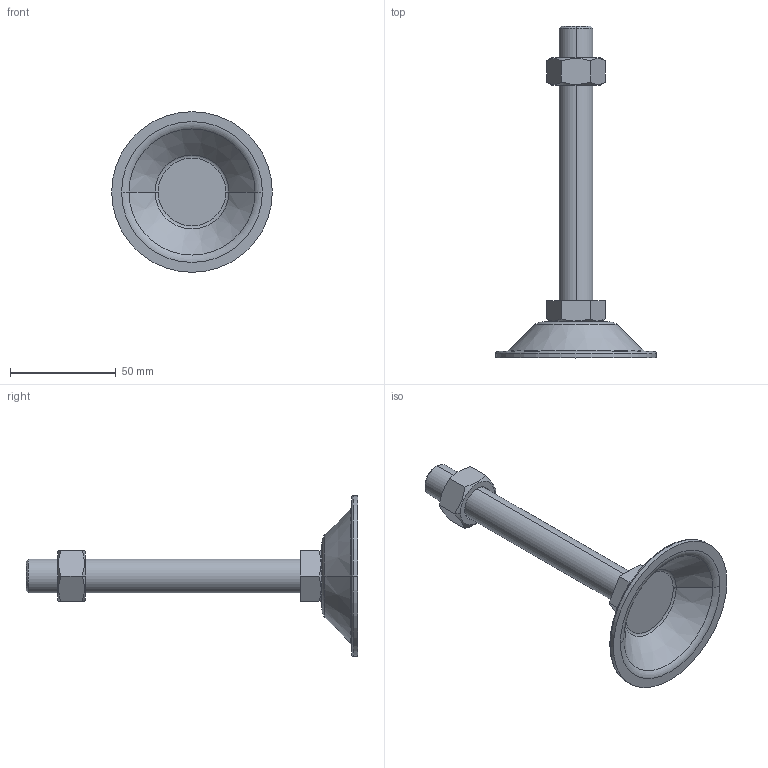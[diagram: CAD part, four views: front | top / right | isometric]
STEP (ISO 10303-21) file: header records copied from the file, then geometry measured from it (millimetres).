
FILE_DESCRIPTION (( 'STEP AP214' ), '1' );
FILE_NAME ('BL76-M16-130.step', '2021-01-06T05:39:43', ( '' ), ( '' ), 'SwSTEP 2.0', 'SolidWorks 2019', '' );
FILE_SCHEMA (( 'AUTOMOTIVE_DESIGN' ));
Length unit declared in the file: millimetre
Products named in the file (1): BL76-M16-130
Bounding box: 76 x 157 x 76 mm (x, y, z)
Volume: 50908.4 mm3; surface area: 21854.4 mm2
Topology: 3 solids, 3 shells, 53 faces, 110 edges, 66 vertices
Faces by surface type: plane 21, cone 16, torus 10, cylinder 6
Entity records: 1618 total; most frequent: CARTESIAN_POINT 428, DIRECTION 252, ORIENTED_EDGE 220, EDGE_CURVE 110, AXIS2_PLACEMENT_3D 106, VERTEX_POINT 66, EDGE_LOOP 58, ADVANCED_FACE 53
